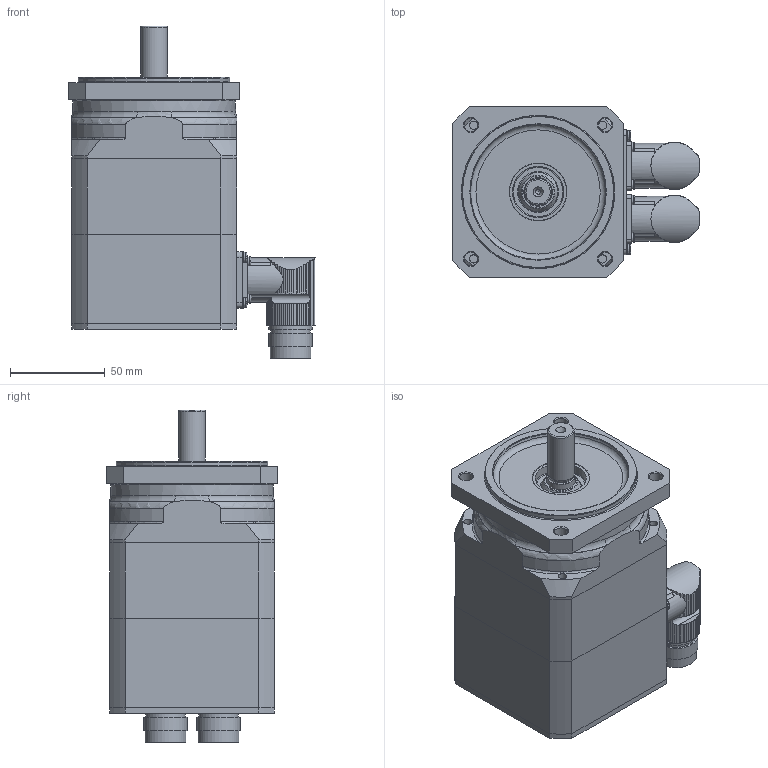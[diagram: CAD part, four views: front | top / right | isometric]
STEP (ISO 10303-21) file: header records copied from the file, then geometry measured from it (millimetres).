
FILE_DESCRIPTION(/* description */ (''),/* implementation_level */ '2;1');
FILE_NAME(/* name */ 'MR 7432-Ux-Nxxx-G01-A0D-M0',/* time_stamp */ '2007-07-13T09:50:00+01:00',/* author */ (''),/* organization */ ('ESR Pollmeier GmbH'),/* preprocessor_version */ 'ST-DEVELOPER v8',/* originating_system */ 'UNIGRAPHICS SOLUTIONS - UNIGRAPHICS 18.0',/* authorisation */ '');
FILE_SCHEMA (('AUTOMOTIVE_DESIGN { 1 2 10303 214 0 1 1 1 }'));
Length unit declared in the file: millimetre
Products named in the file (14): Gehaeuse_SY3_40_0; Rotor_SY3_0; 113036_0; DIN3760_org_A15x30x7_0; iso2009-m3x8_A; iso1580-m2.5x6_A; iso1580-m3x10_A; din128-3_A; 014257_0; 014250_0; 064205Z_0; 113035_0; 064233_0; MR7432-Ux-Nxxx-G01-A0D-M0_0
Assembly tree (26 placements, depth 2):
  MR7432-Ux-Nxxx-G01-A0D-M0_0
    064233_0
    113035_0
    064205Z_0
    014250_0
    014257_0
    din128-3_A
    iso1580-m3x10_A  x4
    iso1580-m2.5x6_A  x8
    iso2009-m3x8_A  x4
    DIN3760_org_A15x30x7_0
    113036_0
    Rotor_SY3_0
    Gehaeuse_SY3_40_0
Bounding box: 129.99 x 90 x 175.15 mm (x, y, z)
Volume: 442408.3 mm3; surface area: 168917 mm2
Topology: 26 solids, 26 shells, 922 faces, 2433 edges, 1593 vertices
Faces by surface type: cylinder 505, plane 257, cone 81, torus 51, sphere 20, bspline 8
Full cylindrical faces by diameter (mm): 1 x16, 1.948 x8, 2 x4, 2.135 x8, 2.387 x4, 2.459 x8, 2.5 x9, 2.7 x8, 3 x8, 3.432 x3, 3.5 x11, 4.351 x4, 5.5 x4, 6 x4, 6.5 x3, 7 x4, 10 x5, 13.52 x1, 14 x1, 15 x2, 15.3 x1, 18 x4, 20 x6, 21 x2, 21.5 x2, 23 x5, 27 x2, 29 x1, 30 x2, 32 x1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
Entity records: 24140 total; most frequent: CARTESIAN_POINT 5782, DIRECTION 3756, ORIENTED_EDGE 3454, EDGE_CURVE 1727, AXIS2_PLACEMENT_3D 1603, VERTEX_POINT 1252, EDGE_LOOP 1128, CIRCLE 818
